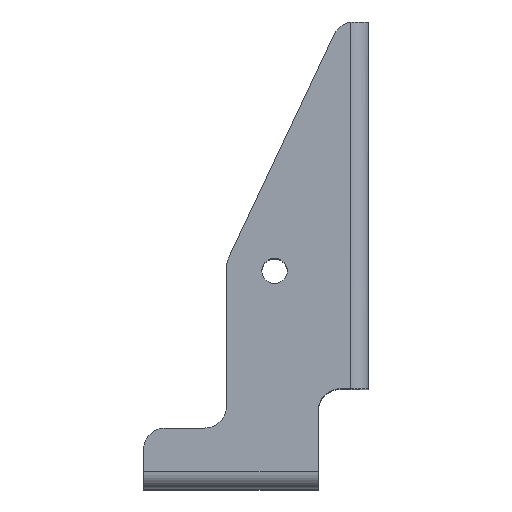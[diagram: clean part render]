
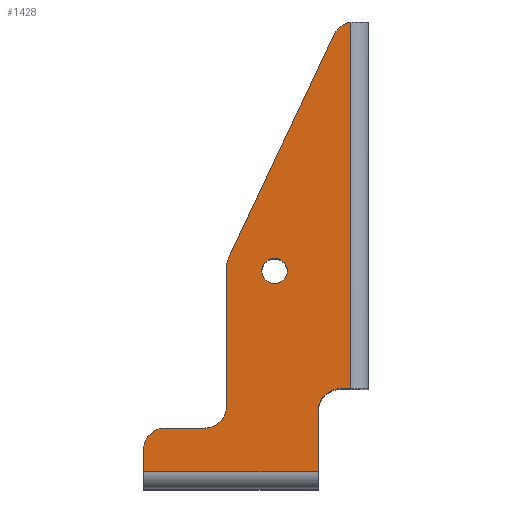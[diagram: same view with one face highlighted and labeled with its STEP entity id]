
A CAD part, top view. The second image highlights one B-rep face of the part: STEP entity #1428.
In plain terms, the highlighted planar face has unit normal (0, 0, 1).
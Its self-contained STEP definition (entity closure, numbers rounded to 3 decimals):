
#74 = EDGE_LOOP ( 'NONE', ( #348, #2351, #1295, #2293, #654, #1221, #907, #1867, #1688, #1437, #804, #2423, #263 ) ) ;
#78 = CARTESIAN_POINT ( 'NONE',  ( -51.5, -19., 59. ) ) ;
#108 = EDGE_CURVE ( 'NONE', #1414, #1163, #1159, .T. ) ;
#151 = LINE ( 'NONE', #2236, #904 ) ;
#188 = CIRCLE ( 'NONE', #1073, 2.9 ) ;
#239 = LINE ( 'NONE', #78, #840 ) ;
#245 = VECTOR ( 'NONE', #758, 1000. ) ;
#263 = ORIENTED_EDGE ( 'NONE', *, *, #1620, .T. ) ;
#297 = CARTESIAN_POINT ( 'NONE',  ( -51.5, 84., 59. ) ) ;
#317 = CARTESIAN_POINT ( 'NONE',  ( -51.5, -19., 59. ) ) ;
#320 = CARTESIAN_POINT ( 'NONE',  ( 0., 84., 59. ) ) ;
#348 = ORIENTED_EDGE ( 'NONE', *, *, #1842, .F. ) ;
#365 = EDGE_CURVE ( 'NONE', #1371, #1412, #1479, .T. ) ;
#369 = VECTOR ( 'NONE', #1653, 1000. ) ;
#385 = VECTOR ( 'NONE', #2237, 1000. ) ;
#445 = DIRECTION ( 'NONE',  ( 1., 0., 0. ) ) ;
#463 = DIRECTION ( 'NONE',  ( 1., 0., 0. ) ) ;
#478 = CIRCLE ( 'NONE', #682, 5. ) ;
#482 = CARTESIAN_POINT ( 'NONE',  ( -32.5, 27.878, 59. ) ) ;
#514 = LINE ( 'NONE', #1642, #1825 ) ;
#515 = CARTESIAN_POINT ( 'NONE',  ( -46.5, -9., 59. ) ) ;
#539 = DIRECTION ( 'NONE',  ( 1., 0., 0. ) ) ;
#567 = CARTESIAN_POINT ( 'NONE',  ( -3.333, 79., 59. ) ) ;
#581 = DIRECTION ( 'NONE',  ( 0., 0., 1. ) ) ;
#621 = DIRECTION ( 'NONE',  ( 0., 1., 0. ) ) ;
#654 = ORIENTED_EDGE ( 'NONE', *, *, #108, .F. ) ;
#667 = VERTEX_POINT ( 'NONE', #1724 ) ;
#682 = AXIS2_PLACEMENT_3D ( 'NONE', #1326, #1313, #947 ) ;
#698 = DIRECTION ( 'NONE',  ( -1., 0., 0. ) ) ;
#700 = VERTEX_POINT ( 'NONE', #795 ) ;
#718 = EDGE_CURVE ( 'NONE', #700, #2469, #2326, .T. ) ;
#720 = AXIS2_PLACEMENT_3D ( 'NONE', #1532, #940, #927 ) ;
#723 = VERTEX_POINT ( 'NONE', #2428 ) ;
#758 = DIRECTION ( 'NONE',  ( 1., 0., 0. ) ) ;
#794 = VERTEX_POINT ( 'NONE', #317 ) ;
#795 = CARTESIAN_POINT ( 'NONE',  ( -4., 83.955, 59. ) ) ;
#804 = ORIENTED_EDGE ( 'NONE', *, *, #1899, .F. ) ;
#840 = VECTOR ( 'NONE', #850, 1000. ) ;
#850 = DIRECTION ( 'NONE',  ( 1., 0., 0. ) ) ;
#869 = EDGE_CURVE ( 'NONE', #723, #956, #478, .T. ) ;
#904 = VECTOR ( 'NONE', #1844, 1000. ) ;
#907 = ORIENTED_EDGE ( 'NONE', *, *, #1451, .T. ) ;
#925 = DIRECTION ( 'NONE',  ( 0., 0., 1. ) ) ;
#927 = DIRECTION ( 'NONE',  ( 1., 0., 0. ) ) ;
#940 = DIRECTION ( 'NONE',  ( 0., 0., 1. ) ) ;
#947 = DIRECTION ( 'NONE',  ( 1., 0., 0. ) ) ;
#953 = CARTESIAN_POINT ( 'NONE',  ( 0., -9., 59. ) ) ;
#956 = VERTEX_POINT ( 'NONE', #2472 ) ;
#957 = VERTEX_POINT ( 'NONE', #1875 ) ;
#1047 = CARTESIAN_POINT ( 'NONE',  ( -37.5, -4., 59. ) ) ;
#1056 = CARTESIAN_POINT ( 'NONE',  ( -37.5, -9., 59. ) ) ;
#1073 = AXIS2_PLACEMENT_3D ( 'NONE', #1418, #2180, #463 ) ;
#1074 = EDGE_CURVE ( 'NONE', #794, #2153, #239, .T. ) ;
#1079 = EDGE_LOOP ( 'NONE', ( #1161 ) ) ;
#1084 = EDGE_CURVE ( 'NONE', #957, #957, #188, .T. ) ;
#1085 = DIRECTION ( 'NONE',  ( 1., 0., 0. ) ) ;
#1103 = AXIS2_PLACEMENT_3D ( 'NONE', #1047, #2130, #445 ) ;
#1159 = LINE ( 'NONE', #953, #245 ) ;
#1161 = ORIENTED_EDGE ( 'NONE', *, *, #1084, .T. ) ;
#1163 = VERTEX_POINT ( 'NONE', #1056 ) ;
#1182 = CARTESIAN_POINT ( 'NONE',  ( -11.5, -19., 59. ) ) ;
#1221 = ORIENTED_EDGE ( 'NONE', *, *, #1536, .T. ) ;
#1228 = CARTESIAN_POINT ( 'NONE',  ( -32.5, -4., 59. ) ) ;
#1232 = CIRCLE ( 'NONE', #1900, 5. ) ;
#1274 = FACE_OUTER_BOUND ( 'NONE', #74, .T. ) ;
#1295 = ORIENTED_EDGE ( 'NONE', *, *, #1855, .F. ) ;
#1299 = AXIS2_PLACEMENT_3D ( 'NONE', #320, #1646, #1085 ) ;
#1313 = DIRECTION ( 'NONE',  ( 0., 0., -1. ) ) ;
#1326 = CARTESIAN_POINT ( 'NONE',  ( -6.5, -5., 59. ) ) ;
#1328 = DIRECTION ( 'NONE',  ( 1., 0., 0. ) ) ;
#1358 = VERTEX_POINT ( 'NONE', #1228 ) ;
#1371 = VERTEX_POINT ( 'NONE', #1621 ) ;
#1389 = VERTEX_POINT ( 'NONE', #1435 ) ;
#1412 = VERTEX_POINT ( 'NONE', #482 ) ;
#1414 = VERTEX_POINT ( 'NONE', #515 ) ;
#1418 = CARTESIAN_POINT ( 'NONE',  ( -21.5, 27., 59. ) ) ;
#1428 = ADVANCED_FACE ( 'NONE', ( #2219, #1274 ), #2031, .T. ) ;
#1435 = CARTESIAN_POINT ( 'NONE',  ( -7.853, 81.137, 59. ) ) ;
#1437 = ORIENTED_EDGE ( 'NONE', *, *, #869, .T. ) ;
#1445 = DIRECTION ( 'NONE',  ( 0.427, 0.904, 0. ) ) ;
#1451 = EDGE_CURVE ( 'NONE', #667, #794, #1480, .T. ) ;
#1479 = CIRCLE ( 'NONE', #720, 5. ) ;
#1480 = LINE ( 'NONE', #297, #385 ) ;
#1532 = CARTESIAN_POINT ( 'NONE',  ( -27.5, 27.878, 59. ) ) ;
#1536 = EDGE_CURVE ( 'NONE', #1414, #667, #2095, .T. ) ;
#1585 = VECTOR ( 'NONE', #621, 1000. ) ;
#1620 = EDGE_CURVE ( 'NONE', #700, #1389, #1232, .T. ) ;
#1621 = CARTESIAN_POINT ( 'NONE',  ( -32.02, 30.015, 59. ) ) ;
#1642 = CARTESIAN_POINT ( 'NONE',  ( 0., 0., 59. ) ) ;
#1646 = DIRECTION ( 'NONE',  ( 0., 0., 1. ) ) ;
#1653 = DIRECTION ( 'NONE',  ( 0., -1., 0. ) ) ;
#1688 = ORIENTED_EDGE ( 'NONE', *, *, #1823, .T. ) ;
#1712 = EDGE_CURVE ( 'NONE', #1163, #1358, #2183, .T. ) ;
#1724 = CARTESIAN_POINT ( 'NONE',  ( -51.5, -14., 59. ) ) ;
#1736 = CARTESIAN_POINT ( 'NONE',  ( -4., 84., 59. ) ) ;
#1741 = VECTOR ( 'NONE', #1445, 1000. ) ;
#1823 = EDGE_CURVE ( 'NONE', #2153, #723, #2361, .T. ) ;
#1825 = VECTOR ( 'NONE', #698, 1000. ) ;
#1842 = EDGE_CURVE ( 'NONE', #1371, #1389, #2009, .T. ) ;
#1844 = DIRECTION ( 'NONE',  ( 0., 1., 0. ) ) ;
#1855 = EDGE_CURVE ( 'NONE', #1358, #1412, #151, .T. ) ;
#1867 = ORIENTED_EDGE ( 'NONE', *, *, #1074, .T. ) ;
#1875 = CARTESIAN_POINT ( 'NONE',  ( -18.6, 27., 59. ) ) ;
#1887 = CARTESIAN_POINT ( 'NONE',  ( -4., 0., 59. ) ) ;
#1899 = EDGE_CURVE ( 'NONE', #2469, #956, #514, .T. ) ;
#1900 = AXIS2_PLACEMENT_3D ( 'NONE', #567, #925, #1328 ) ;
#1990 = AXIS2_PLACEMENT_3D ( 'NONE', #2247, #581, #539 ) ;
#2009 = LINE ( 'NONE', #2409, #1741 ) ;
#2031 = PLANE ( 'NONE',  #1299 ) ;
#2095 = CIRCLE ( 'NONE', #1990, 5. ) ;
#2130 = DIRECTION ( 'NONE',  ( 0., 0., 1. ) ) ;
#2153 = VERTEX_POINT ( 'NONE', #1182 ) ;
#2172 = CARTESIAN_POINT ( 'NONE',  ( -11.5, -19., 59. ) ) ;
#2180 = DIRECTION ( 'NONE',  ( 0., 0., -1. ) ) ;
#2183 = CIRCLE ( 'NONE', #1103, 5. ) ;
#2219 = FACE_BOUND ( 'NONE', #1079, .T. ) ;
#2236 = CARTESIAN_POINT ( 'NONE',  ( -32.5, 84., 59. ) ) ;
#2237 = DIRECTION ( 'NONE',  ( 0., -1., 0. ) ) ;
#2247 = CARTESIAN_POINT ( 'NONE',  ( -46.5, -14., 59. ) ) ;
#2293 = ORIENTED_EDGE ( 'NONE', *, *, #1712, .F. ) ;
#2326 = LINE ( 'NONE', #1736, #369 ) ;
#2351 = ORIENTED_EDGE ( 'NONE', *, *, #365, .T. ) ;
#2361 = LINE ( 'NONE', #2172, #1585 ) ;
#2409 = CARTESIAN_POINT ( 'NONE',  ( -5.313, 86.511, 59. ) ) ;
#2423 = ORIENTED_EDGE ( 'NONE', *, *, #718, .F. ) ;
#2428 = CARTESIAN_POINT ( 'NONE',  ( -11.5, -5., 59. ) ) ;
#2469 = VERTEX_POINT ( 'NONE', #1887 ) ;
#2472 = CARTESIAN_POINT ( 'NONE',  ( -6.5, 0., 59. ) ) ;
